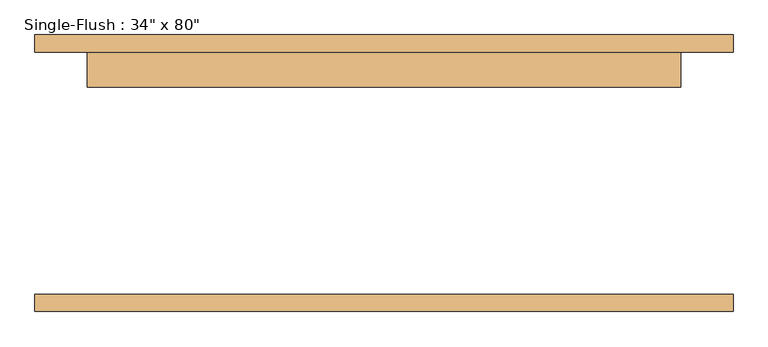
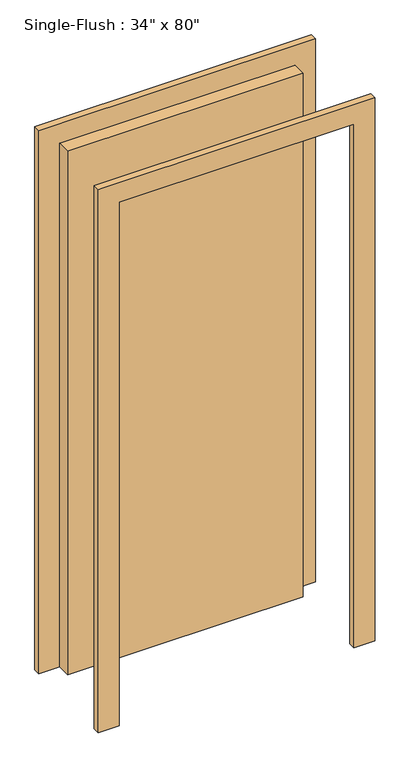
"""IFC4 building model written with IfcOpenShell, lengths in millimetres: door geometry."""

from ifc_helpers import new_model, si_unit, frame, origin, origin_with_axes, place, context, project, spatial, polyline, outline, extrude, source, transform, mapped, element, save


def door_f5d74769(model_context):
    return source(origin(), model_context, "Body", "SweptSolid", [
        extrude(outline(polyline([(2108.2, -508.0), (0.0, -508.0), (0.0, -431.8), (2032.0, -431.8), (2032.0, 431.8), (0.0, 431.8), (0.0, 508.0), (2108.2, 508.0), (2108.2, -508.0)])), frame((0.0, 176.2125, 0.0), z_axis=(0.0, 1.0, 0.0), x_axis=(0.0, 0.0, 1.0)), (0.0, 0.0, 1.0), 25.4),
        extrude(outline(polyline([(2108.2, 508.0), (2108.2, -508.0), (0.0, -508.0), (0.0, -431.8), (2032.0, -431.8), (2032.0, 431.8), (0.0, 431.8), (0.0, 508.0), (2108.2, 508.0)])), frame((0.0, -201.6125, 0.0), z_axis=(0.0, 1.0, 0.0), x_axis=(0.0, 0.0, 1.0)), (0.0, 0.0, 1.0), 25.4),
        extrude(outline(polyline([(431.8, 125.4125), (-431.8, 125.4125), (-431.8, 176.2125), (431.8, 176.2125), (431.8, 125.4125)])), origin_with_axes(), (0.0, 0.0, 1.0), 2032.0),
    ])


if __name__ == "__main__":
    model = new_model("IFC4")
    model_context = context("Model", 3, world=origin())
    ifc_project = project(units=[si_unit("LENGTHUNIT", "METRE", prefix="MILLI")], contexts=[model_context])
    site = spatial("IfcSite", under=ifc_project)
    building = spatial("IfcBuilding", under=site)
    placement = place(None, origin())
    door_shape = door_f5d74769(model_context)
    element("IfcDoor", 1, ObjectType="Single-Flush : 34\" x 80\"", at=placement, inside=building, context=model_context, shape_type="MappedRepresentation", body=[
        mapped(door_shape, transform((0.0, 0.0, 0.0), x_axis=(1.0, 0.0, 0.0), y_axis=(0.0, 1.0, 0.0), z_axis=(0.0, 0.0, 1.0))),
    ])
    save(model, "model.ifc")
